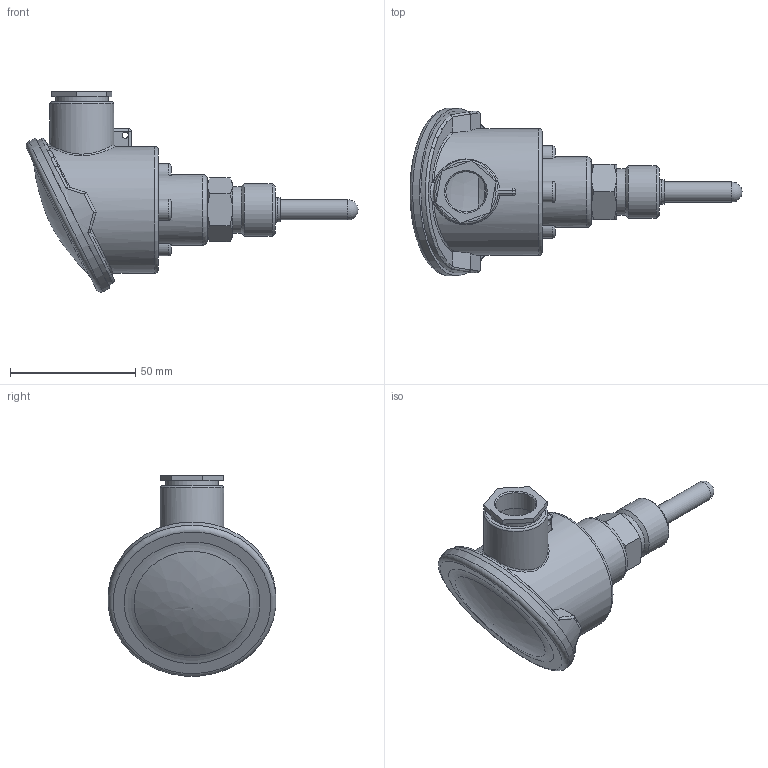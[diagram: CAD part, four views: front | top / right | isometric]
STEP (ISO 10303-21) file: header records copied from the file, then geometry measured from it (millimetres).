
FILE_DESCRIPTION( ( 'Unknown' ), '1' );
FILE_NAME( 'Z:/U_Proces/dokumentation new/Mechanical parts/7000 3D Step filer/7000-/7000283/TCR6-1720.2011.1012.0610.0050.stp', 'Unknown', ( 'Unknown' ), ( 'Unknown' ), 'PSStep 15.0.49', 'Unknown', ' ' );
FILE_SCHEMA( ( 'AUTOMOTIVE_DESIGN { 1 0 10303 214 1 1 1 1 }' ) );
Length unit declared in the file: millimetre
Products named in the file (1): 2100115
Bounding box: 132.29 x 66.75 x 79.78 mm (x, y, z)
Volume: 57662.1 mm3; surface area: 34457.1 mm2
Topology: 1 solids, 1 shells, 133 faces, 324 edges, 208 vertices
Faces by surface type: plane 53, cylinder 31, bspline 16, torus 15, cone 11, sphere 5, revolution 2
Full cylindrical faces by diameter (mm): 2.5 x1, 6 x1, 8 x2, 8.1 x1, 9.6 x1, 11.2 x1, 13.1 x1, 13.16 x1, 15.5 x1, 16 x1, 18.5 x1, 20.96 x1, 21 x2, 25.5 x1, 28.2 x1, 47 x1, 50 x1, 50.5 x1, 64.5 x1, 67 x1
Entity records: 6155 total; most frequent: CARTESIAN_POINT 2415, DIRECTION 520, ORIENTED_EDGE 512, EDGE_CURVE 256, AXIS2_PLACEMENT_3D 231, EDGE_LOOP 194, VERTEX_POINT 188, FACE_OUTER_BOUND 162
